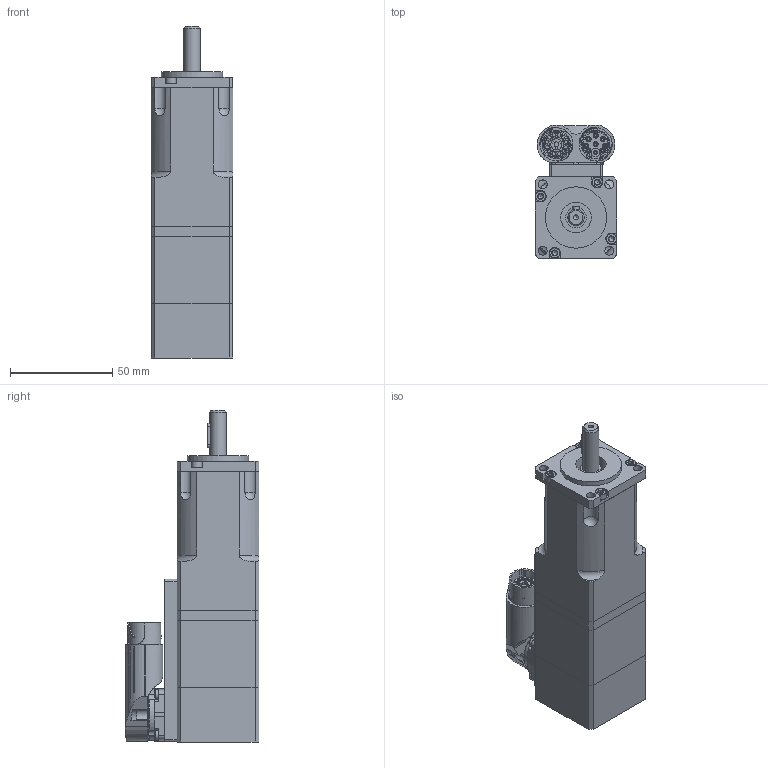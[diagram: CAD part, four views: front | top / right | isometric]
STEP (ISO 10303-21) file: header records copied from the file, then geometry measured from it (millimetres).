
FILE_DESCRIPTION(/* description */ (''),/* implementation_level */ '2;1');
FILE_NAME(/* name */ 'C:\Users\Public\Documents\Autodesk\Inventor LT 2014\Workspace\Motori Sito WEB\TG_0\STEP TG_0\DSM5_05_x19D.stp',/* time_stamp */ '2021-03-31T14:06:12+02:00',/* author */ ('marcor'),/* organization */ (''),/* preprocessor_version */ 'ST-DEVELOPER v15.2',/* originating_system */ 'Autodesk Inventor LT ',/* authorisation */ '');
FILE_SCHEMA (('AUTOMOTIVE_DESIGN { 1 0 10303 214 3 1 1 }'));
Length unit declared in the file: millimetre
Products named in the file (1): DSM5_05_x19D
Bounding box: 40 x 65.4 x 162.5 mm (x, y, z)
Volume: 171694.4 mm3; surface area: 56831.9 mm2
Topology: 25 solids, 26 shells, 1064 faces, 2671 edges, 1750 vertices
Faces by surface type: plane 443, cylinder 391, cone 121, torus 84, sphere 25
Full cylindrical faces by diameter (mm): 1.075 x12, 1.15 x7, 1.7 x5, 2.013 x6, 2.05 x1, 2.224 x6, 2.3 x1, 2.45 x4, 2.459 x13, 2.5 x6, 2.55 x3, 2.7 x4, 2.88 x6, 3 x14, 3.2 x10, 3.5 x2, 4 x2, 4.3 x4, 4.8 x2, 5 x2, 5.3 x4, 5.45 x1, 5.5 x6, 6 x6, 7.5 x1, 8 x2, 10 x1, 11 x1, 11.75 x1, 11.8 x1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
Entity records: 32691 total; most frequent: CARTESIAN_POINT 8401, DIRECTION 4788, ORIENTED_EDGE 4530, EDGE_CURVE 2265, AXIS2_PLACEMENT_3D 1951, VERTEX_POINT 1631, EDGE_LOOP 1486, ADVANCED_FACE 1063
